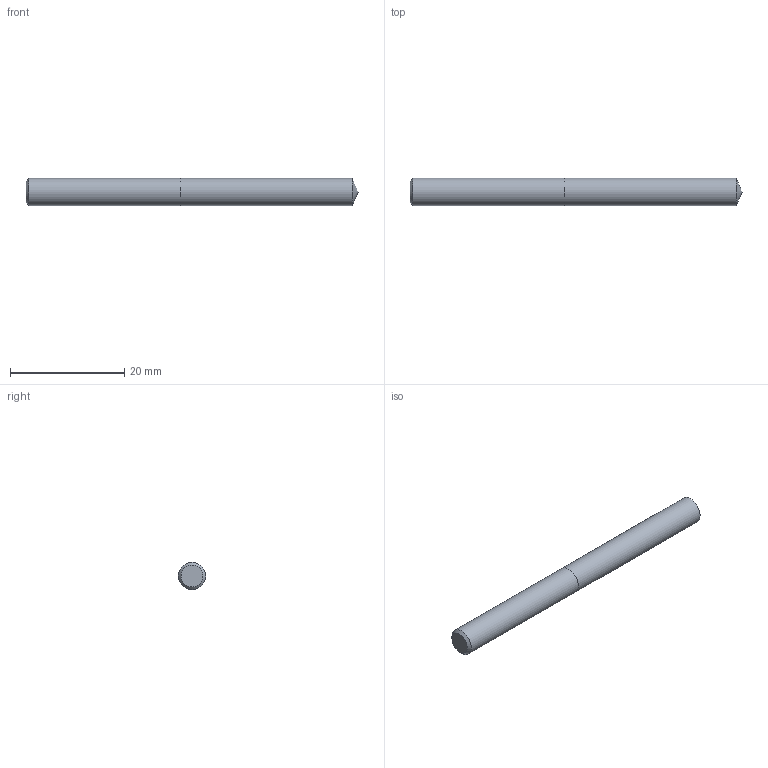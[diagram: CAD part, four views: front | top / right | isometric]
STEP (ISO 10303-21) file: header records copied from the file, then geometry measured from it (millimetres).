
FILE_DESCRIPTION (( 'STEP AP214' ), '1' );
FILE_NAME ('03-2354.STEP', '2022-06-03T06:38:09', ( 'USER' ), ( '' ), 'SwSTEP 2.0', 'SolidWorks 2018', '' );
FILE_SCHEMA (( 'AUTOMOTIVE_DESIGN' ));
Length unit declared in the file: inch
Products named in the file (1): 03-2354
Bounding box: 58.14 x 4.8 x 4.8 mm (x, y, z)
Volume: 1038.8 mm3; surface area: 931.3 mm2
Topology: 2 solids, 2 shells, 7 faces, 11 edges, 7 vertices
Faces by surface type: plane 3, cylinder 2, cone 2
Full cylindrical faces by diameter (mm): 4.801 x2
Entity records: 214 total; most frequent: DIRECTION 26, CARTESIAN_POINT 18, AXIS2_PLACEMENT_3D 13, EDGE_LOOP 10, ORIENTED_EDGE 10, FACE_OUTER_BOUND 9, ADVANCED_FACE 7, UNCERTAINTY_MEASURE_WITH_UNIT 7
